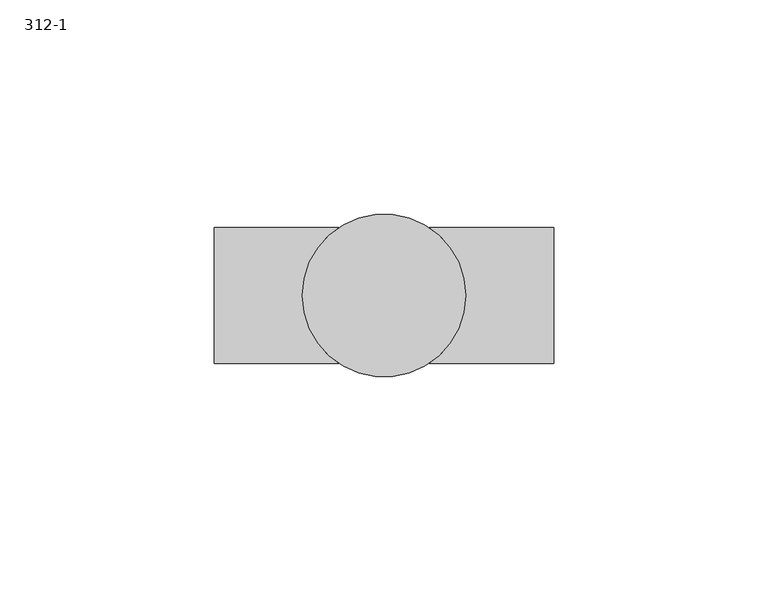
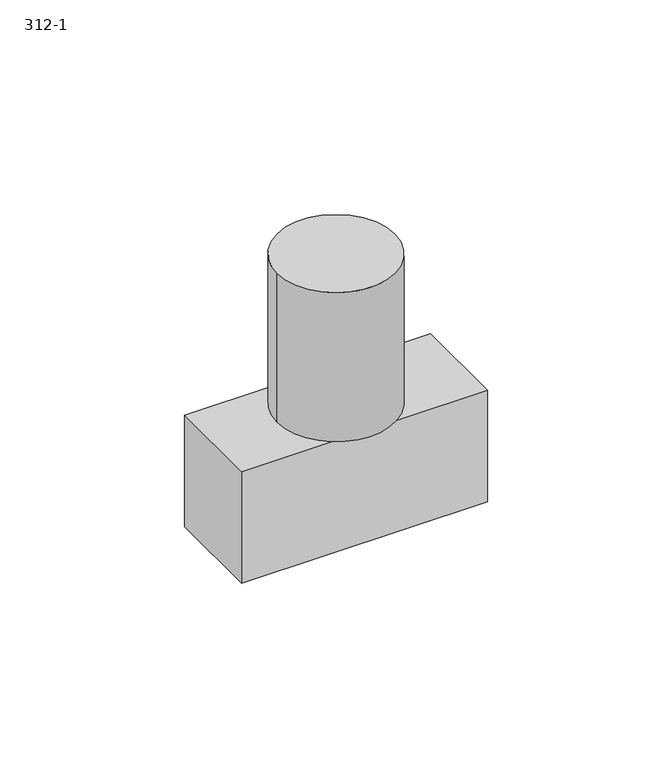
"""IFC4 building model written with IfcOpenShell, lengths in millimetres: proxy geometry, Duct_Adapter-Walkercell-Wiremold-Conduit : 312-1."""

from ifc_helpers import new_model, si_unit, frame, origin, place, context, project, spatial, circle_curve, source, transform, mapped, element, save
from ifc_brep_helpers import plane_surface, cylinder_surface, advanced_brep


def proxy_312_1_261b0aa3(model_context):
    return source(origin(), model_context, "Body", "AdvancedBrep", [
        advanced_brep(
        [(-19.05, 0.0, 88.9), (19.05, 0.0, 88.9), (-10.5302837, 15.875, 38.1), (10.5302837, 15.875, 38.1), (10.5302837, -15.875, 38.1), (-10.5302837, -15.875, 38.1), (-19.05, 0.0, 38.1), (19.05, 0.0, 38.1), (-39.6875, 15.875, 38.1), (-39.6875, -15.875, 38.1), (39.6875, -15.875, 38.1), (39.6875, 15.875, 38.1), (39.6875, 15.875, 0.0), (39.6875, -15.875, 0.0), (-39.6875, -15.875, 0.0), (-39.6875, 15.875, 0.0)],
        [
            (0, 1, circle_curve(frame((0.0, 0.0, 88.9), z_axis=(0.0, 0.0, 1.0), x_axis=(1.0, 0.0, 0.0)), 19.05)),
            (1, 0, circle_curve(frame((0.0, 0.0, 88.9), z_axis=(0.0, 0.0, 1.0), x_axis=(1.0, 0.0, 0.0)), 19.05)),
            (2, 3, circle_curve(frame((0.0, 0.0, 38.1), z_axis=(0.0, 0.0, -1.0), x_axis=(1.0, 0.0, 0.0)), 19.05)),
            (3, 2),
            (4, 5, circle_curve(frame((0.0, 0.0, 38.1), z_axis=(0.0, 0.0, -1.0), x_axis=(1.0, 0.0, 0.0)), 19.05)),
            (5, 4),
            (0, 6),
            (6, 5, circle_curve(frame((0.0, 0.0, 38.1), z_axis=(0.0, 0.0, 1.0), x_axis=(1.0, 0.0, 0.0)), 19.05)),
            (4, 7, circle_curve(frame((0.0, 0.0, 38.1), z_axis=(0.0, 0.0, 1.0), x_axis=(1.0, 0.0, 0.0)), 19.05)),
            (7, 1),
            (7, 3, circle_curve(frame((0.0, 0.0, 38.1), z_axis=(0.0, 0.0, 1.0), x_axis=(1.0, 0.0, 0.0)), 19.05)),
            (2, 6, circle_curve(frame((0.0, 0.0, 38.1), z_axis=(0.0, 0.0, 1.0), x_axis=(1.0, 0.0, 0.0)), 19.05)),
            (8, 9),
            (9, 5),
            (2, 8),
            (10, 11),
            (11, 3),
            (4, 10),
            (12, 13),
            (13, 14),
            (14, 15),
            (15, 12),
            (15, 8),
            (11, 12),
            (14, 9),
            (13, 10),
        ],
        [
            plane_surface(frame((19.05, 0.0, 88.9), z_axis=(0.0, 0.0, 1.0), x_axis=(0.0, 1.0, 0.0))),
            plane_surface(frame((19.05, 0.0, 38.1), z_axis=(0.0, 0.0, -1.0), x_axis=(0.0, -1.0, 0.0))),
            cylinder_surface(frame((0.0, 0.0, 38.1), z_axis=(0.0, 0.0, 1.0), x_axis=(1.0, 0.0, 0.0)), 19.05),
            plane_surface(frame((-39.6875, 15.875, 38.1), z_axis=(0.0, 0.0, 1.0), x_axis=(-1.0, 0.0, 0.0))),
            plane_surface(frame((-39.6875, 15.875, 0.0), z_axis=(0.0, 0.0, -1.0), x_axis=(1.0, 0.0, 0.0))),
            plane_surface(frame((39.6875, 15.875, 38.1), z_axis=(0.0, 1.0, 0.0), x_axis=(0.0, 0.0, -1.0))),
            plane_surface(frame((-39.6875, 15.875, 38.1), z_axis=(-1.0, 0.0, 0.0), x_axis=(0.0, 0.0, -1.0))),
            plane_surface(frame((-39.6875, -15.875, 38.1), z_axis=(0.0, -1.0, 0.0), x_axis=(0.0, 0.0, -1.0))),
            plane_surface(frame((39.6875, -15.875, 38.1), z_axis=(1.0, 0.0, 0.0), x_axis=(0.0, 0.0, -1.0))),
        ],
        [
            (0, [[1, 2]]),
            (1, [[3, 4]]),
            (1, [[5, 6]]),
            (2, [[-1, 7, 8, -5, 9, 10]]),
            (2, [[-2, -10, 11, -3, 12, -7]]),
            (3, [[13, 14, -8, -12, 15]]),
            (3, [[16, 17, -11, -9, 18]]),
            (4, [[19, 20, 21, 22]]),
            (5, [[-22, 23, -15, -4, -17, 24]]),
            (6, [[-13, -23, -21, 25]]),
            (7, [[-20, 26, -18, -6, -14, -25]]),
            (8, [[-16, -26, -19, -24]]),
        ],
    ),
    ])


if __name__ == "__main__":
    model = new_model("IFC4")
    model_context = context("Model", 3, world=origin())
    ifc_project = project(units=[si_unit("LENGTHUNIT", "METRE", prefix="MILLI")], contexts=[model_context])
    site = spatial("IfcSite", under=ifc_project)
    building = spatial("IfcBuilding", under=site)
    placement = place(None, origin())
    proxy_312_1_shape = proxy_312_1_261b0aa3(model_context)
    element("IfcBuildingElementProxy", 1, Name="Duct_Adapter-Walkercell-Wiremold-Conduit : 312-1", ObjectType="Duct_Adapter-Walkercell-Wiremold-Conduit : 312-1", at=placement, inside=building, context=model_context, shape_type="MappedRepresentation", body=[
        mapped(proxy_312_1_shape, transform((0.0, 0.0, 0.0), x_axis=(1.0, 0.0, 0.0), y_axis=(0.0, 1.0, 0.0), z_axis=(0.0, 0.0, 1.0))),
    ])
    save(model, "model.ifc")
